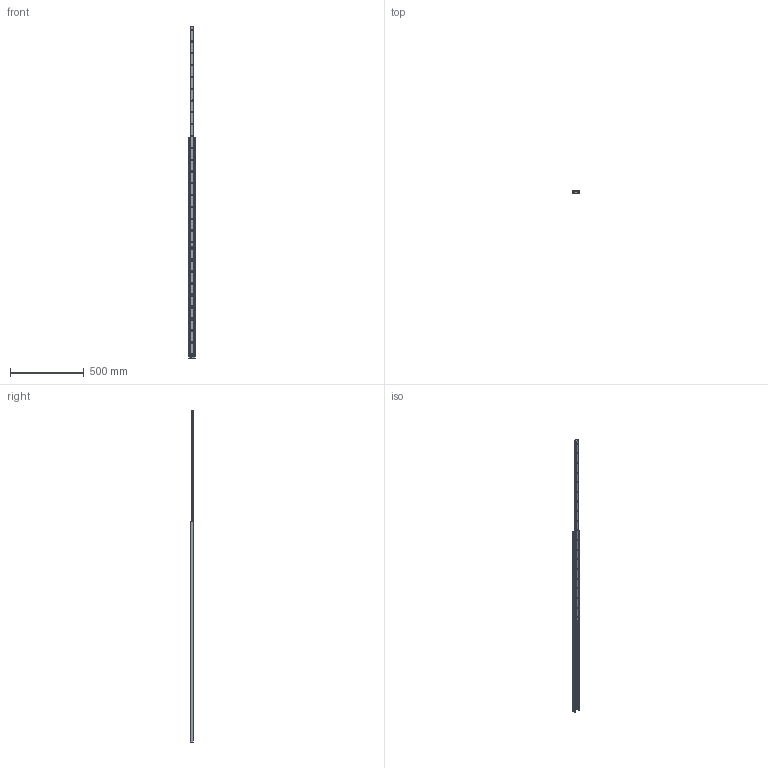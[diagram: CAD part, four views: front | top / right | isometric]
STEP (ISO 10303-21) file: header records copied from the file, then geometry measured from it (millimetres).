
FILE_DESCRIPTION(('STEP AP214'),'1');
FILE_NAME('rail_asn43-1490_01.stp','2017-06-06T10:14:52',('TraceParts'),('TraceParts S.A.'),'Spatial InterOp 3D',' ',' ');
FILE_SCHEMA(('automotive_design'));
Length unit declared in the file: millimetre
Products named in the file (2): rail_asn43-1490_01_1; rail_asn43-1490_01_2
Bounding box: 43 x 22.01 x 2248 mm (x, y, z)
Volume: 906888.2 mm3; surface area: 350670.1 mm2
Topology: 2 solids, 2 shells, 267 faces, 660 edges, 402 vertices
Faces by surface type: cone 114, cylinder 107, plane 46
Entity records: 8092 total; most frequent: DIRECTION 1526, CARTESIAN_POINT 1331, ORIENTED_EDGE 1320, EDGE_CURVE 660, AXIS2_PLACEMENT_3D 597, VERTEX_POINT 402, EDGE_LOOP 348, LINE 332
